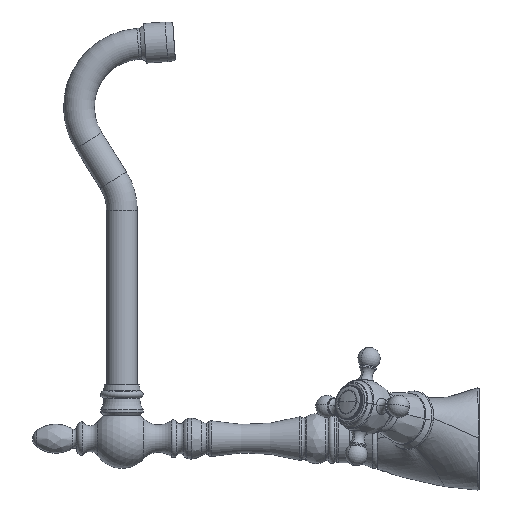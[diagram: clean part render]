
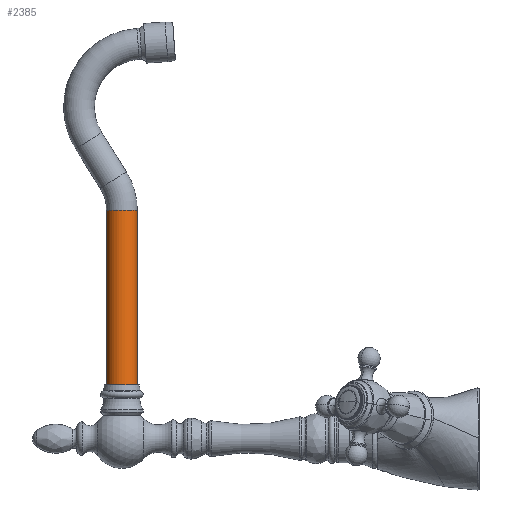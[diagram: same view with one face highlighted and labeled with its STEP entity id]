
A CAD part, left-side view. The second image highlights one B-rep face of the part: STEP entity #2385.
In plain terms, the highlighted cylindrical face has radius 9 mm (diameter 18 mm), a partial arc.
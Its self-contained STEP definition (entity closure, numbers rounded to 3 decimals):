
#250=CYLINDRICAL_SURFACE('',#19476,9.);
#1387=CIRCLE('',#19473,9.);
#1388=CIRCLE('',#19475,9.);
#2385=ADVANCED_FACE('',(#3870),#250,.T.);
#3870=FACE_OUTER_BOUND('',#4938,.T.);
#4938=EDGE_LOOP('',(#8968,#8969,#8970,#8971));
#8968=ORIENTED_EDGE('',*,*,#14615,.T.);
#8969=ORIENTED_EDGE('',*,*,#14616,.F.);
#8970=ORIENTED_EDGE('',*,*,#14617,.F.);
#8971=ORIENTED_EDGE('',*,*,#14614,.T.);
#12300=VERTEX_POINT('',#48612);
#12301=VERTEX_POINT('',#48613);
#12302=VERTEX_POINT('',#48617);
#12303=VERTEX_POINT('',#48619);
#14614=EDGE_CURVE('',#12301,#12300,#1387,.T.);
#14615=EDGE_CURVE('',#12300,#12302,#16437,.T.);
#14616=EDGE_CURVE('',#12303,#12302,#1388,.T.);
#14617=EDGE_CURVE('',#12301,#12303,#16438,.T.);
#16437=LINE('',#48616,#17669);
#16438=LINE('',#48620,#17670);
#17669=VECTOR('',#23378,1.);
#17670=VECTOR('',#23381,1.);
#19473=AXIS2_PLACEMENT_3D('',#48614,#23374,#23375);
#19475=AXIS2_PLACEMENT_3D('',#48618,#23379,#23380);
#19476=AXIS2_PLACEMENT_3D('',#48621,#23382,#23383);
#23374=DIRECTION('',(0.,0.,1.));
#23375=DIRECTION('',(0.,1.,0.));
#23378=DIRECTION('',(0.,0.,1.));
#23379=DIRECTION('',(0.,0.,1.));
#23380=DIRECTION('',(0.,1.,0.));
#23381=DIRECTION('',(0.,0.,1.));
#23382=DIRECTION('',(0.,0.,1.));
#23383=DIRECTION('',(0.,-1.,0.));
#48612=CARTESIAN_POINT('',(0.,199.5,17.));
#48613=CARTESIAN_POINT('',(0.,217.5,17.));
#48614=CARTESIAN_POINT('',(0.,208.5,17.));
#48616=CARTESIAN_POINT('',(0.,199.5,17.));
#48617=CARTESIAN_POINT('',(0.,199.5,133.34));
#48618=CARTESIAN_POINT('',(0.,208.5,133.34));
#48619=CARTESIAN_POINT('',(0.,217.5,133.34));
#48620=CARTESIAN_POINT('',(0.,217.5,17.));
#48621=CARTESIAN_POINT('',(0.,208.5,17.));
